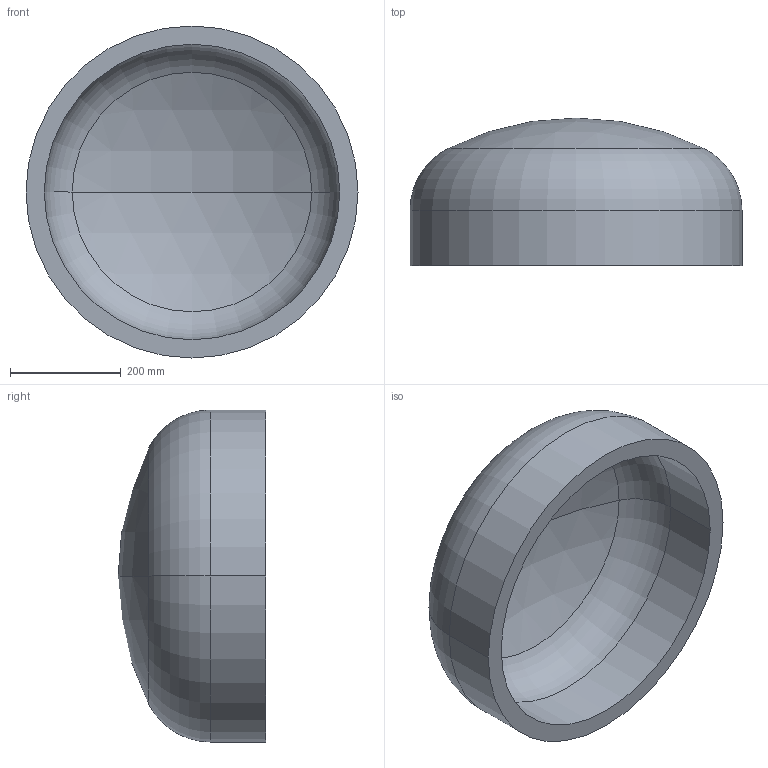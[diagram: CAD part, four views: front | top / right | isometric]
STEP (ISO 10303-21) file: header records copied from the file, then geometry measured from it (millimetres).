
FILE_DESCRIPTION (( 'STEP AP203' ), '1' );
FILE_NAME ('DIN 28013 Korbbogenform_-_Boden DIN 28013 - 600 x 100 - I - s=33.step', '2016-07-01T07:59:42', ( '' ), ( '' ), 'SwSTEP 2.0', 'SolidWorks 2013', '' );
FILE_SCHEMA (( 'CONFIG_CONTROL_DESIGN' ));
Length unit declared in the file: millimetre
Products named in the file (1): DIN 28013 Korbbogenform_-_Boden DIN 28013 - 600 x 100 - I - s=33
Bounding box: 600 x 266.71 x 600 mm (x, y, z)
Volume: 17911806 mm3; surface area: 1146626.9 mm2
Topology: 1 solids, 1 shells, 13 faces, 24 edges, 14 vertices
Faces by surface type: torus 4, cylinder 4, sphere 4, plane 1
Entity records: 407 total; most frequent: DIRECTION 72, CARTESIAN_POINT 52, ORIENTED_EDGE 48, AXIS2_PLACEMENT_3D 34, EDGE_CURVE 24, CIRCLE 20, EDGE_LOOP 14, VERTEX_POINT 14
